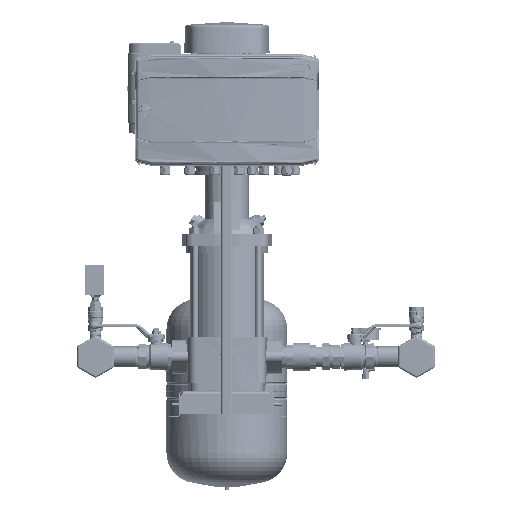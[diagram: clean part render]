
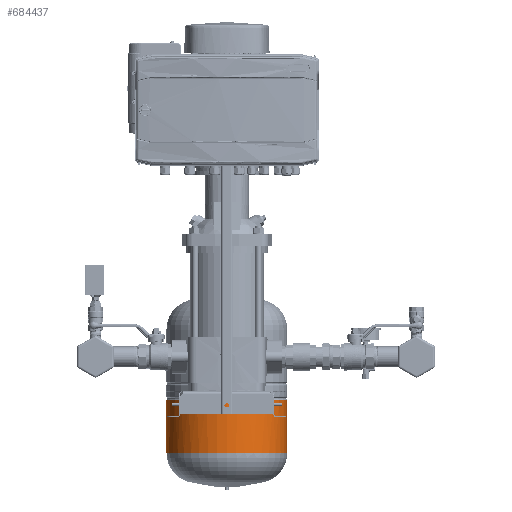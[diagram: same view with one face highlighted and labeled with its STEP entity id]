
A CAD part, left-side view. The second image highlights one B-rep face of the part: STEP entity #684437.
In plain terms, the highlighted cylindrical face has radius 140 mm (diameter 280 mm), a partial arc.
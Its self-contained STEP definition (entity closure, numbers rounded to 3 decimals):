
#677546=CARTESIAN_POINT('Vertex',(-140.,0.,-20.533)) ;
#677549=CARTESIAN_POINT('Axis2P3D Location',(0.,0.,-20.533)) ;
#677553=CARTESIAN_POINT('Vertex',(0.,-140.,-20.533)) ;
#677608=CARTESIAN_POINT('Vertex',(0.,140.,-20.533)) ;
#677611=CARTESIAN_POINT('Axis2P3D Location',(0.,0.,-20.533)) ;
#684352=CARTESIAN_POINT('Axis2P3D Location',(0.,0.,-85.867)) ;
#684357=CARTESIAN_POINT('Line Origine',(0.,140.,-85.867)) ;
#684361=CARTESIAN_POINT('Vertex',(0.,140.,-142.492)) ;
#684364=CARTESIAN_POINT('Line Origine',(0.,-140.,-85.867)) ;
#684368=CARTESIAN_POINT('Vertex',(0.,-140.,-142.492)) ;
#684406=CARTESIAN_POINT('Control Point',(-140.,0.,-142.492)) ;
#684407=CARTESIAN_POINT('Control Point',(-140.,21.991,-142.492)) ;
#684408=CARTESIAN_POINT('Control Point',(-135.682,43.982,-142.492)) ;
#684409=CARTESIAN_POINT('Control Point',(-127.042,64.842,-142.492)) ;
#684410=CARTESIAN_POINT('Control Point',(-102.048,102.048,-142.492)) ;
#684411=CARTESIAN_POINT('Control Point',(-64.842,127.042,-142.492)) ;
#684412=CARTESIAN_POINT('Control Point',(-43.982,135.682,-142.492)) ;
#684413=CARTESIAN_POINT('Control Point',(-21.991,140.,-142.492)) ;
#684414=CARTESIAN_POINT('Control Point',(0.,140.,-142.492)) ;
#684415=CARTESIAN_POINT('Vertex',(-140.,0.,-142.492)) ;
#684419=CARTESIAN_POINT('Control Point',(0.,-140.,-142.492)) ;
#684420=CARTESIAN_POINT('Control Point',(-21.991,-140.,-142.492)) ;
#684421=CARTESIAN_POINT('Control Point',(-43.982,-135.682,-142.492)) ;
#684422=CARTESIAN_POINT('Control Point',(-64.842,-127.042,-142.492)) ;
#684423=CARTESIAN_POINT('Control Point',(-102.048,-102.048,-142.492)) ;
#684424=CARTESIAN_POINT('Control Point',(-127.042,-64.842,-142.492)) ;
#684425=CARTESIAN_POINT('Control Point',(-135.682,-43.982,-142.492)) ;
#684426=CARTESIAN_POINT('Control Point',(-140.,-21.991,-142.492)) ;
#684427=CARTESIAN_POINT('Control Point',(-140.,0.,-142.492)) ;
#684359=VECTOR('Line Direction',#684358,1.) ;
#684366=VECTOR('Line Direction',#684365,1.) ;
#677550=DIRECTION('Axis2P3D Direction',(0.,0.,-1.)) ;
#677612=DIRECTION('Axis2P3D Direction',(0.,0.,-1.)) ;
#684353=DIRECTION('Axis2P3D Direction',(0.,0.,-1.)) ;
#684354=DIRECTION('Axis2P3D XDirection',(0.,-1.,0.)) ;
#684358=DIRECTION('Vector Direction',(0.,0.,-1.)) ;
#684365=DIRECTION('Vector Direction',(0.,0.,-1.)) ;
#677551=AXIS2_PLACEMENT_3D('Circle Axis2P3D',#677549,#677550,$) ;
#677613=AXIS2_PLACEMENT_3D('Circle Axis2P3D',#677611,#677612,$) ;
#684355=AXIS2_PLACEMENT_3D('Cylinder Axis2P3D',#684352,#684353,#684354) ;
#684360=LINE('Line',#684357,#684359) ;
#684367=LINE('Line',#684364,#684366) ;
#677552=CIRCLE('generated circle',#677551,140.) ;
#677614=CIRCLE('generated circle',#677613,140.) ;
#684356=CYLINDRICAL_SURFACE('generated cylinder',#684355,140.) ;
#677555=EDGE_CURVE('',#677547,#677554,#677552,.F.) ;
#677615=EDGE_CURVE('',#677609,#677547,#677614,.F.) ;
#684363=EDGE_CURVE('',#677609,#684362,#684360,.T.) ;
#684370=EDGE_CURVE('',#684369,#677554,#684367,.F.) ;
#684417=EDGE_CURVE('',#684416,#684362,#684405,.T.) ;
#684428=EDGE_CURVE('',#684369,#684416,#684418,.T.) ;
#684430=ORIENTED_EDGE('',*,*,#684370,.T.) ;
#684431=ORIENTED_EDGE('',*,*,#677555,.F.) ;
#684432=ORIENTED_EDGE('',*,*,#677615,.F.) ;
#684433=ORIENTED_EDGE('',*,*,#684363,.T.) ;
#684434=ORIENTED_EDGE('',*,*,#684417,.F.) ;
#684435=ORIENTED_EDGE('',*,*,#684428,.F.) ;
#684429=EDGE_LOOP('',(#684430,#684431,#684432,#684433,#684434,#684435)) ;
#677547=VERTEX_POINT('',#677546) ;
#677554=VERTEX_POINT('',#677553) ;
#677609=VERTEX_POINT('',#677608) ;
#684362=VERTEX_POINT('',#684361) ;
#684369=VERTEX_POINT('',#684368) ;
#684416=VERTEX_POINT('',#684415) ;
#684437=ADVANCED_FACE('MANIFOLD_SOLID_BREP #40',(#684436),#684356,.T.) ;
#684405=B_SPLINE_CURVE_WITH_KNOTS('',5,(#684406,#684407,#684408,#684409,#684410,#684411,#684412,#684413,#684414),.UNSPECIFIED.,.F.,.U.,(6,3,6),(0.,109.956,219.911),.UNSPECIFIED.) ;
#684418=B_SPLINE_CURVE_WITH_KNOTS('',5,(#684419,#684420,#684421,#684422,#684423,#684424,#684425,#684426,#684427),.UNSPECIFIED.,.F.,.U.,(6,3,6),(-219.911,-109.956,0.),.UNSPECIFIED.) ;
#684436=FACE_OUTER_BOUND('',#684429,.T.) ;
